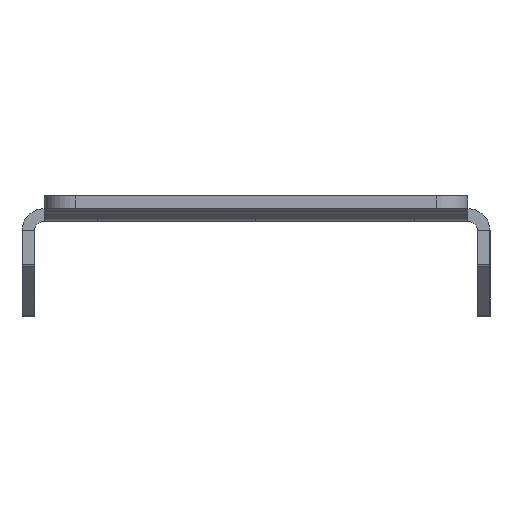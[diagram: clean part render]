
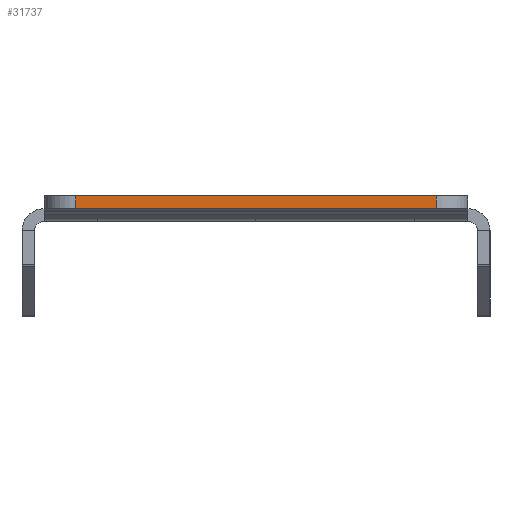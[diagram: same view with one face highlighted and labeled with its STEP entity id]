
A CAD part, left-side view. The second image highlights one B-rep face of the part: STEP entity #31737.
In plain terms, the highlighted planar face has unit normal (-1, 0, 0).
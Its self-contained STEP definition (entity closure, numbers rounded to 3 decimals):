
#2582 = DIRECTION ( 'NONE',  ( 0., 0., -1. ) ) ;
#3480 = EDGE_CURVE ( 'NONE', #57747, #28001, #50051, .T. ) ;
#4862 = VECTOR ( 'NONE', #6693, 1000. ) ;
#5138 = CARTESIAN_POINT ( 'NONE',  ( -476.002, -28.5, 7.531 ) ) ;
#5603 = DIRECTION ( 'NONE',  ( -1., 0., 0. ) ) ;
#6693 = DIRECTION ( 'NONE',  ( 0., 1., 0. ) ) ;
#9572 = ORIENTED_EDGE ( 'NONE', *, *, #11784, .T. ) ;
#9983 = CARTESIAN_POINT ( 'NONE',  ( -476.002, 28.5, 7.531 ) ) ;
#11784 = EDGE_CURVE ( 'NONE', #46149, #49460, #39187, .T. ) ;
#14666 = CARTESIAN_POINT ( 'NONE',  ( -476.002, 28.5, 9.531 ) ) ;
#15684 = LINE ( 'NONE', #34303, #4862 ) ;
#16589 = CARTESIAN_POINT ( 'NONE',  ( -476.002, 28.5, 9.531 ) ) ;
#18373 = VECTOR ( 'NONE', #18932, 1000. ) ;
#18932 = DIRECTION ( 'NONE',  ( 0., 1., 0. ) ) ;
#21517 = VECTOR ( 'NONE', #2582, 1000. ) ;
#21796 = EDGE_CURVE ( 'NONE', #28001, #46149, #15684, .T. ) ;
#22425 = CARTESIAN_POINT ( 'NONE',  ( -476.002, -28.5, 9.531 ) ) ;
#23419 = CARTESIAN_POINT ( 'NONE',  ( -476.002, 0., 7.531 ) ) ;
#23595 = PLANE ( 'NONE',  #41795 ) ;
#24162 = FACE_OUTER_BOUND ( 'NONE', #28342, .T. ) ;
#28001 = VERTEX_POINT ( 'NONE', #50930 ) ;
#28342 = EDGE_LOOP ( 'NONE', ( #28572, #46638, #39408, #9572 ) ) ;
#28572 = ORIENTED_EDGE ( 'NONE', *, *, #46328, .F. ) ;
#29418 = LINE ( 'NONE', #23419, #18373 ) ;
#31737 = ADVANCED_FACE ( 'NONE', ( #24162 ), #23595, .T. ) ;
#34303 = CARTESIAN_POINT ( 'NONE',  ( -476.002, 33.5, 9.531 ) ) ;
#36779 = VECTOR ( 'NONE', #36840, 1000. ) ;
#36840 = DIRECTION ( 'NONE',  ( 0., 0., 1. ) ) ;
#39187 = LINE ( 'NONE', #14666, #21517 ) ;
#39408 = ORIENTED_EDGE ( 'NONE', *, *, #21796, .T. ) ;
#41795 = AXIS2_PLACEMENT_3D ( 'NONE', #42501, #5603, #41929 ) ;
#41929 = DIRECTION ( 'NONE',  ( 0., 0., 1. ) ) ;
#42501 = CARTESIAN_POINT ( 'NONE',  ( -476.002, 33.5, 9.531 ) ) ;
#46149 = VERTEX_POINT ( 'NONE', #16589 ) ;
#46328 = EDGE_CURVE ( 'NONE', #57747, #49460, #29418, .T. ) ;
#46638 = ORIENTED_EDGE ( 'NONE', *, *, #3480, .T. ) ;
#49460 = VERTEX_POINT ( 'NONE', #9983 ) ;
#50051 = LINE ( 'NONE', #22425, #36779 ) ;
#50930 = CARTESIAN_POINT ( 'NONE',  ( -476.002, -28.5, 9.531 ) ) ;
#57747 = VERTEX_POINT ( 'NONE', #5138 ) ;
